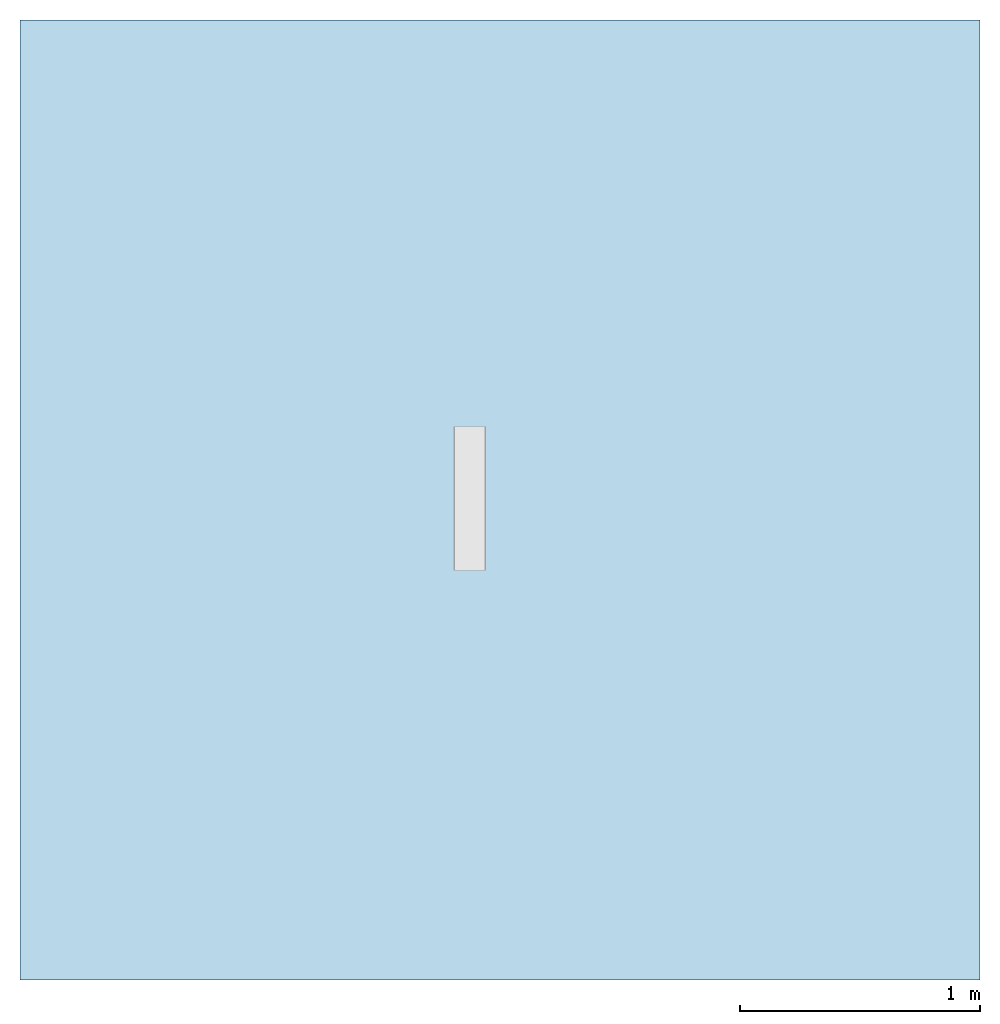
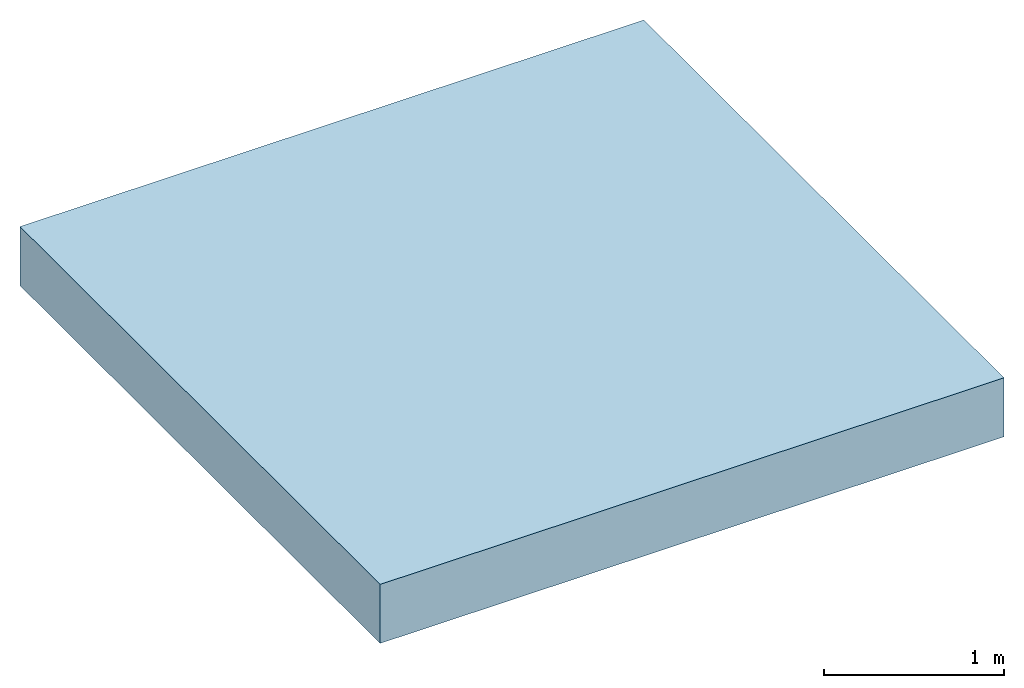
# One storey, incomplete: 1 slab, 2 openings.
"""IFC2X3 building model written with IfcOpenShell, lengths in millimetres."""

from ifc_helpers import new_model, entity, si_unit, converted_unit, derived_unit, direction, frame, frame_2d, origin, place, context, subcontext, project, spatial, polyline, rectangle, outline, extrude, faceted_brep, material, layer, layer_set, layer_usage, element, save


model = new_model("IFC2X3")

# Units and contexts
model_context = context("Model", 3, precision=1e-05, world=origin(), true_north=direction((2.0, 6.12303176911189e-17, 1.0)))
context_of_model = context(None, 3, precision=1e-05, world=origin(), true_north=direction((2.0, 6.12303176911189e-17, 1.0)))
body_context = subcontext(model_context, "Body", "Model", "MODEL_VIEW")
ifc_project = project(units=[si_unit("LENGTHUNIT", "METRE", prefix="MILLI"), si_unit("AREAUNIT", "SQUARE_METRE"), si_unit("VOLUMEUNIT", "CUBIC_METRE"), converted_unit("PLANEANGLEUNIT", "DEGREE", entity("IfcRatioMeasure", 0.0174532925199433), si_unit("PLANEANGLEUNIT", "RADIAN"), dimensions=[0, 0, 0, 0, 0, 0, 0]), si_unit("MASSUNIT", "GRAM", prefix="KILO"), si_unit("TIMEUNIT", "SECOND"), si_unit("THERMODYNAMICTEMPERATUREUNIT", "KELVIN"), derived_unit("THERMALTRANSMITTANCEUNIT", [(si_unit("MASSUNIT", "GRAM", prefix="KILO"), 1), (si_unit("THERMODYNAMICTEMPERATUREUNIT", "KELVIN"), -1), (si_unit("TIMEUNIT", "SECOND"), -3)]), derived_unit("VOLUMETRICFLOWRATEUNIT", [(si_unit("LENGTHUNIT", "METRE"), 3), (si_unit("TIMEUNIT", "SECOND"), -1)]), si_unit("POWERUNIT", "WATT")], contexts=[model_context, context_of_model])

# Site, building, storey
site_placement = place(None, origin())
site = spatial("IfcSite", under=ifc_project, at=site_placement, Name="Default", CompositionType="ELEMENT")
building_placement = place(site_placement, origin())
building = spatial("IfcBuilding", under=site, at=building_placement, CompositionType="ELEMENT")
storey_placement = place(building_placement, origin())
storey = spatial("IfcBuildingStorey", under=building, at=storey_placement, Name="Level 1", CompositionType="ELEMENT", Elevation=0.0)

# Slab, openings
ifc_material = material(Name="Concrete, Broom Finish")
ifc_layer = layer(ifc_material, 400.0)
ifc_layer_set = layer_set([ifc_layer], Name="Floor:Generic Floor - 400mm")
ifc_layer_usage = layer_usage(ifc_layer_set, "AXIS3", "POSITIVE", 0.0)
slab_placement = place(storey_placement, origin())
slab = element("IfcSlab", 1, at=slab_placement, inside=storey, material=ifc_layer_usage, Name="Floor:Generic Floor - 400mm", ObjectType="Floor:Generic Floor - 400mm", PredefinedType="FLOOR", context=body_context, shape_type="SweptSolid", body=[
    extrude(rectangle(XDim=4000.0, YDim=4000.0, at=frame_2d((0.0, 0.0), x_axis=(0.0, -1.0))), frame((-42.176138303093, 2.05004766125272, 0.0), z_axis=(0.0, 0.0, -1.0), x_axis=(-1.0, 0.0, 0.0)), (0.0, 0.0, 1.0), 400.0),
])
opening_1_placement = place(slab_placement, frame((-168.040704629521, -591.552298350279, -5053.0)))
element("IfcOpeningElement", 2, at=opening_1_placement, cuts=slab, ObjectType="Recess", context=body_context, shape_type="Brep", body=[
    faceted_brep([(302.223121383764, 175.255521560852, 32.0), (300.076475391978, 298.23678806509, 32.0), (134.144907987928, 172.321705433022, 32.0), (295.712509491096, 298.160614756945, 32.0), (130.0, 0.0, 32.0), (130.0, 168.103816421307, 32.0), (7.0, 0.0, 32.0), (7.0, 168.103816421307, 32.0), (7.0, 163.739186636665, 32.0), (131.985921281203, 296.009971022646, 32.2928932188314), (131.980809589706, 296.302819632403, 33.0), (131.998261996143, 295.302971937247, 32.0), (134.144907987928, 172.321705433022, 53.0), (131.980809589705, 296.302819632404, 53.0), (302.223121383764, 175.255521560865, 0.0), (130.0, 172.249355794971, 0.0), (130.0, 172.249355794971, 53.0), (299.954308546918, 305.235721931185, 0.0), (0.0, 300.0, 0.0), (0.0, 0.0, 0.0), (130.0, 0.0, 0.0), (300.059022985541, 299.236635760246, 53.0), (299.954308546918, 305.235721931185, 53.0), (6.0, 168.103816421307, 53.0), (0.0, 300.0, 53.0), (0.0, 0.0, 53.0), (130.0, 168.103816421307, 53.0), (6.0, 0.0, 53.0), (6.0, 168.103816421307, 33.0), (6.29289321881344, 168.103816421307, 32.2928932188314), (300.064134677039, 298.943787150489, 32.2928932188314), (300.059022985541, 299.236635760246, 33.0), (140.708741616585, 296.455166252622, 33.0), (6.29289321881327, 0.0, 32.2928932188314), (6.0, 0.0, 33.0), (6.0, 8.7292616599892, 33.0), (272.002592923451, 298.455351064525, 32.2942756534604), (273.814254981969, 297.778379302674, 32.0), (278.570212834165, 298.608297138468, 32.3349384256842), (254.007759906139, 298.108651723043, 32.2630003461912), (259.896197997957, 298.278651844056, 32.3308195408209), (257.072565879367, 298.486304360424, 33.0), (139.318735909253, 296.137965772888, 32.2928932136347), (237.04714554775, 297.136607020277, 32.0), (239.661490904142, 297.8628028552, 32.2672134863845), (233.480216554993, 297.72760765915, 32.2427819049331), (286.608060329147, 298.675556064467, 32.2610474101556), (284.319142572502, 297.96174279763, 32.0), (145.077818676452, 296.23849093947, 32.2928932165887), (149.436673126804, 296.607512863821, 33.0), (184.522704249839, 296.219789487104, 32.0), (188.717372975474, 297.006176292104, 32.2988969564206), (183.037761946, 296.891114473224, 32.2830635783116), (155.595048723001, 295.714855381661, 32.0), (158.653902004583, 296.433410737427, 32.2532114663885), (150.836901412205, 296.339016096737, 32.292893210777), (202.894368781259, 297.221785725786, 32.2679155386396), (205.532480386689, 296.586516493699, 32.0), (208.146067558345, 297.235275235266, 32.2022940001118), (189.775148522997, 296.311471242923, 32.0), (194.399132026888, 297.105407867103, 32.2989540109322), (149.454126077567, 295.607665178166, 32.0), (223.302679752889, 297.599503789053, 32.2885139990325), (220.22703077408, 297.843163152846, 33.0), (213.399313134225, 297.401935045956, 32.2649373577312), (287.777178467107, 299.022255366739, 33.0), (292.629707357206, 298.814018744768, 32.2928932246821), (175.620467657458, 297.064552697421, 33.0), (166.89253614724, 296.912206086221, 33.0), (171.260361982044, 296.767235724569, 32.3727558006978), (250.93164336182, 298.379114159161, 33.0), (248.078971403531, 298.070514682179, 32.3287527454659), (279.066698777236, 297.870061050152, 32.0), (275.495333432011, 298.807874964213, 33.0), (238.649798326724, 298.164733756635, 33.0), (295.695057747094, 299.160462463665, 33.0), (140.726194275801, 295.455318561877, 32.0), (289.571586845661, 298.05342455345, 32.0), (281.636255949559, 298.915065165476, 33.0), (161.735970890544, 295.822045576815, 32.0), (164.835769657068, 296.558810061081, 32.2691642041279), (184.348399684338, 297.216899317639, 33.0), (193.076331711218, 297.369245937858, 33.0), (268.56181070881, 297.686697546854, 32.0), (265.811608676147, 298.342461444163, 32.2894648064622), (269.354410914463, 298.70068476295, 33.0), (258.056922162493, 297.503334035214, 32.0), (263.309366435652, 297.595015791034, 32.0), (247.552033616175, 297.319970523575, 32.0), (252.804477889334, 297.411652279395, 32.0), (263.213488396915, 298.593494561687, 33.0), (242.299589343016, 297.228288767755, 32.0), (244.790720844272, 298.271923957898, 33.0), (232.508875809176, 298.057543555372, 33.0), (226.367953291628, 297.950353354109, 33.0), (228.441030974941, 297.769059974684, 32.3774173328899), (231.794701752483, 297.044925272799, 32.0), (226.542257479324, 296.953243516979, 32.0), (158.164604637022, 296.759859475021, 33.0), (167.876893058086, 295.929235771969, 32.0), (177.362507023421, 296.764390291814, 32.2571703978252), (174.017815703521, 296.036425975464, 32.0), (179.27025997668, 296.128107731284, 32.0), (207.945185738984, 297.62878275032, 33.0), (201.804263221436, 297.521592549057, 33.0), (195.027592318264, 296.403152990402, 32.0), (200.28003611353, 296.49483473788, 32.0), (214.086108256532, 297.735972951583, 33.0), (210.784924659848, 296.678198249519, 32.0), (216.037368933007, 296.769880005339, 32.0), (221.289813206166, 296.861561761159, 32.0), (6.29151349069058, 140.038024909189, 32.2942756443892), (7.0, 141.837591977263, 32.0), (6.25321148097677, 146.607313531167, 32.3349384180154), (6.3241068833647, 122.039881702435, 32.2630003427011), (6.25690008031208, 127.930390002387, 32.3308195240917), (6.0, 125.110810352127, 33.0), (6.29289321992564, 7.33393164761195, 32.2928932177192), (7.0, 105.064883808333, 32.0), (6.31954136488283, 107.691507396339, 32.2672135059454), (6.34683785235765, 101.50881504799, 32.2427819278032), (6.32624258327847, 154.645110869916, 32.2610474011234), (7.0, 152.34408268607, 32.0), (6.29289321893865, 13.0938916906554, 32.2928932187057), (6.0, 17.4585233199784, 33.0), (7.0, 52.5324419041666, 32.0), (6.28693999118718, 56.7401973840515, 32.2988969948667), (6.30286143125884, 51.0594432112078, 32.283063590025), (7.0, 23.600380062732, 32.0), (6.33493842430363, 26.6713092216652, 32.2532114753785), (6.29289322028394, 18.8538517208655, 32.2928932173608), (6.31878609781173, 70.9187975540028, 32.2679155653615), (7.0, 73.5454186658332, 32.0), (6.39695342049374, 76.1699319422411, 32.2022940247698), (7.0, 57.7856849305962, 32.0), (6.28688391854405, 62.4228229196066, 32.2989540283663), (7.0, 17.4585214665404, 32.0), (6.29729972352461, 91.3305919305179, 32.2885140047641), (6.0, 88.2596644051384, 33.0), (6.32200078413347, 81.4252860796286, 32.2649373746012), (6.0, 155.820101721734, 33.0), (6.29289322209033, 160.668256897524, 32.2928932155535), (6.0, 43.6463046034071, 33.0), (6.0, 34.9170447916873, 33.0), (6.22117733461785, 39.2816751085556, 32.3727558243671), (6.0, 118.968952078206, 33.0), (6.25876647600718, 116.111330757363, 32.3287527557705), (7.0, 147.090837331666, 32.0), (6.0, 143.536385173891, 33.0), (6.0, 106.685235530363, 33.0), (6.0, 163.739185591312, 33.0), (7.0, 8.72925956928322, 32.0), (7.0, 157.597328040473, 32.0), (6.0, 149.678243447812, 33.0), (7.0, 29.7422363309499, 32.0), (6.31744666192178, 32.8544238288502, 32.2691642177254), (6.0, 52.3755662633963, 33.0), (6.0, 61.1048279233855, 33.0), (7.0, 136.584348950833, 32.0), (6.29633832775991, 133.846013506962, 32.2894648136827), (6.0, 137.39452689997, 33.0), (7.0, 126.07786057, 32.0), (7.0, 131.331105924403, 32.0), (7.0, 115.571372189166, 32.0), (7.0, 120.824615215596, 32.0), (6.0, 131.252668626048, 33.0), (7.0, 110.318129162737, 32.0), (6.0, 112.827093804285, 33.0), (6.0, 100.543377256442, 33.0), (6.0, 94.4015208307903, 33.0), (6.21744596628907, 96.471120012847, 32.3774173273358), (7.0, 99.8116384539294, 32.0), (7.0, 94.5583954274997, 32.0), (6.0, 26.1877849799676, 33.0), (7.0, 35.8840949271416, 32.0), (6.3305194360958, 45.3828409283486, 32.2571704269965), (7.0, 42.0259535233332, 32.0), (7.0, 47.2791988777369, 32.0), (6.0, 75.9759478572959, 33.0), (6.0, 69.8340895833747, 33.0), (7.0, 63.0389302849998, 32.0), (7.0, 68.2921756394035, 32.0), (6.0, 82.1178061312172, 33.0), (7.0, 78.7986616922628, 32.0), (7.0, 84.0519070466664, 32.0), (7.0, 89.30515240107, 32.0)], [[[0, 1, 2]], [[2, 1, 3]], [[4, 5, 6]], [[5, 7, 8]], [[9, 10, 11]], [[2, 11, 12]], [[10, 13, 11]], [[12, 11, 13]], [[14, 0, 2]], [[14, 2, 15]], [[16, 15, 2]], [[16, 2, 12]], [[17, 14, 15]], [[17, 15, 18]], [[19, 18, 15]], [[19, 15, 20]], [[21, 22, 13]], [[12, 13, 16]], [[16, 13, 23]], [[22, 24, 13]], [[23, 24, 25]], [[23, 26, 16]], [[27, 23, 25]], [[23, 13, 24]], [[7, 28, 29]], [[26, 7, 5]], [[7, 23, 28]], [[23, 7, 26]], [[5, 15, 16]], [[5, 16, 26]], [[5, 4, 20]], [[5, 20, 15]], [[1, 0, 14]], [[30, 1, 17]], [[14, 17, 1]], [[17, 31, 30]], [[31, 22, 21]], [[17, 22, 31]], [[21, 10, 32]], [[13, 10, 21]], [[22, 17, 24]], [[18, 24, 17]], [[20, 4, 6]], [[19, 6, 33]], [[6, 19, 20]], [[33, 34, 19]], [[27, 25, 34]], [[34, 25, 19]], [[28, 23, 27]], [[27, 34, 35]], [[24, 18, 19]], [[19, 25, 24]], [[36, 37, 38]], [[39, 40, 41]], [[42, 32, 10]], [[43, 44, 45]], [[46, 38, 47]], [[32, 48, 49]], [[50, 51, 52]], [[53, 54, 55]], [[56, 57, 58]], [[51, 59, 60]], [[55, 48, 61]], [[42, 48, 32]], [[62, 63, 64]], [[65, 46, 66]], [[67, 68, 69]], [[39, 70, 71]], [[72, 38, 37]], [[38, 73, 36]], [[74, 45, 44]], [[3, 1, 30]], [[30, 31, 75]], [[30, 66, 3]], [[76, 61, 48]], [[9, 11, 42]], [[66, 77, 3]], [[46, 77, 66]], [[66, 75, 65]], [[75, 66, 30]], [[72, 47, 38]], [[78, 38, 46]], [[73, 38, 78]], [[46, 65, 78]], [[54, 79, 80]], [[70, 39, 41]], [[81, 51, 82]], [[83, 36, 84]], [[36, 85, 84]], [[86, 87, 40]], [[86, 40, 39]], [[88, 89, 71]], [[90, 40, 84]], [[43, 91, 44]], [[39, 71, 89]], [[90, 84, 85]], [[36, 73, 85]], [[91, 88, 71]], [[71, 92, 44]], [[93, 45, 74]], [[71, 44, 91]], [[41, 40, 90]], [[62, 94, 63]], [[45, 93, 95]], [[96, 43, 45]], [[95, 62, 97]], [[74, 44, 92]], [[71, 70, 92]], [[40, 87, 84]], [[47, 77, 46]], [[87, 83, 84]], [[55, 49, 48]], [[97, 96, 95]], [[76, 48, 42]], [[80, 98, 54]], [[98, 55, 54]], [[98, 49, 55]], [[79, 54, 53]], [[55, 61, 53]], [[68, 98, 80]], [[80, 69, 68]], [[80, 99, 69]], [[67, 69, 100]], [[60, 82, 51]], [[101, 100, 69]], [[67, 100, 81]], [[101, 69, 99]], [[80, 79, 99]], [[100, 102, 52]], [[76, 42, 11]], [[100, 101, 102]], [[9, 42, 10]], [[64, 103, 58]], [[104, 60, 56]], [[36, 83, 37]], [[52, 102, 50]], [[60, 104, 82]], [[105, 106, 60]], [[106, 56, 60]], [[56, 106, 57]], [[103, 104, 56]], [[107, 103, 64]], [[64, 108, 109]], [[108, 58, 57]], [[63, 107, 64]], [[94, 62, 95]], [[110, 62, 109]], [[64, 109, 62]], [[56, 58, 103]], [[64, 58, 108]], [[110, 97, 62]], [[94, 95, 93]], [[96, 45, 95]], [[52, 81, 100]], [[52, 51, 81]], [[89, 86, 39]], [[105, 60, 59]], [[51, 50, 59]], [[111, 112, 113]], [[114, 115, 116]], [[117, 35, 34]], [[118, 119, 120]], [[121, 113, 122]], [[35, 123, 124]], [[125, 126, 127]], [[128, 129, 130]], [[131, 132, 133]], [[126, 134, 135]], [[130, 123, 136]], [[117, 123, 35]], [[137, 138, 139]], [[140, 121, 141]], [[142, 143, 144]], [[114, 145, 146]], [[147, 113, 112]], [[113, 148, 111]], [[149, 120, 119]], [[8, 7, 29]], [[29, 28, 150]], [[29, 141, 8]], [[151, 136, 123]], [[33, 6, 117]], [[141, 152, 8]], [[121, 152, 141]], [[141, 150, 140]], [[150, 141, 29]], [[147, 122, 113]], [[153, 113, 121]], [[148, 113, 153]], [[121, 140, 153]], [[129, 154, 155]], [[145, 114, 116]], [[156, 126, 157]], [[158, 111, 159]], [[111, 160, 159]], [[161, 162, 115]], [[161, 115, 114]], [[163, 164, 146]], [[165, 115, 159]], [[118, 166, 119]], [[114, 146, 164]], [[165, 159, 160]], [[111, 148, 160]], [[166, 163, 146]], [[146, 167, 119]], [[168, 120, 149]], [[146, 119, 166]], [[116, 115, 165]], [[137, 169, 138]], [[120, 168, 170]], [[171, 118, 120]], [[170, 137, 172]], [[149, 119, 167]], [[146, 145, 167]], [[115, 162, 159]], [[122, 152, 121]], [[162, 158, 159]], [[130, 124, 123]], [[172, 171, 170]], [[151, 123, 117]], [[155, 173, 129]], [[173, 130, 129]], [[173, 124, 130]], [[154, 129, 128]], [[130, 136, 128]], [[143, 173, 155]], [[155, 144, 143]], [[155, 174, 144]], [[142, 144, 175]], [[135, 157, 126]], [[176, 175, 144]], [[142, 175, 156]], [[176, 144, 174]], [[155, 154, 174]], [[175, 177, 127]], [[151, 117, 6]], [[175, 176, 177]], [[33, 117, 34]], [[139, 178, 133]], [[179, 135, 131]], [[111, 158, 112]], [[127, 177, 125]], [[135, 179, 157]], [[180, 181, 135]], [[181, 131, 135]], [[131, 181, 132]], [[178, 179, 131]], [[182, 178, 139]], [[139, 183, 184]], [[183, 133, 132]], [[138, 182, 139]], [[169, 137, 170]], [[185, 137, 184]], [[139, 184, 137]], [[131, 133, 178]], [[139, 133, 183]], [[185, 172, 137]], [[169, 170, 168]], [[171, 120, 170]], [[127, 156, 175]], [[127, 126, 156]], [[164, 161, 114]], [[180, 135, 134]], [[126, 125, 134]], [[2, 3, 77]], [[2, 77, 47]], [[2, 47, 72]], [[2, 72, 37]], [[2, 37, 83]], [[2, 83, 87]], [[2, 87, 86]], [[2, 86, 89]], [[2, 89, 88]], [[2, 88, 91]], [[2, 91, 43]], [[2, 43, 96]], [[2, 96, 97]], [[2, 97, 110]], [[2, 110, 109]], [[2, 109, 108]], [[2, 108, 57]], [[2, 57, 106]], [[2, 106, 105]], [[2, 105, 59]], [[2, 59, 50]], [[2, 50, 102]], [[2, 102, 101]], [[2, 101, 99]], [[2, 99, 79]], [[2, 79, 53]], [[2, 53, 61]], [[2, 61, 76]], [[2, 76, 11]], [[5, 8, 152]], [[5, 152, 122]], [[5, 122, 147]], [[5, 147, 112]], [[5, 112, 158]], [[5, 158, 162]], [[5, 162, 161]], [[5, 161, 164]], [[5, 164, 163]], [[5, 163, 166]], [[5, 166, 118]], [[5, 118, 171]], [[5, 171, 172]], [[5, 172, 185]], [[5, 185, 184]], [[5, 184, 183]], [[5, 183, 132]], [[5, 132, 181]], [[5, 181, 180]], [[5, 180, 134]], [[5, 134, 125]], [[5, 125, 177]], [[5, 177, 176]], [[5, 176, 174]], [[5, 174, 154]], [[5, 154, 128]], [[5, 128, 136]], [[5, 136, 151]], [[5, 151, 6]], [[21, 32, 49]], [[21, 49, 98]], [[21, 98, 68]], [[21, 68, 67]], [[21, 67, 81]], [[21, 81, 82]], [[21, 82, 104]], [[21, 104, 103]], [[21, 103, 107]], [[21, 107, 63]], [[21, 63, 94]], [[21, 94, 93]], [[21, 93, 74]], [[21, 74, 92]], [[21, 92, 70]], [[21, 70, 41]], [[21, 41, 90]], [[21, 90, 85]], [[21, 85, 73]], [[21, 73, 78]], [[21, 78, 65]], [[21, 65, 75]], [[21, 75, 31]], [[27, 35, 124]], [[27, 124, 173]], [[27, 173, 143]], [[27, 143, 142]], [[27, 142, 156]], [[27, 156, 157]], [[27, 157, 179]], [[27, 179, 178]], [[27, 178, 182]], [[27, 182, 138]], [[27, 138, 169]], [[27, 169, 168]], [[27, 168, 149]], [[27, 149, 167]], [[27, 167, 145]], [[27, 145, 116]], [[27, 116, 165]], [[27, 165, 160]], [[27, 160, 148]], [[27, 148, 153]], [[27, 153, 140]], [[27, 140, 150]], [[27, 150, 28]]]),
])
opening_2_placement = place(slab_placement, frame((-168.040704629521, -591.552298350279, -5053.0)))
element("IfcOpeningElement", 3, at=opening_2_placement, cuts=slab, ObjectType="Recess", context=body_context, shape_type="SweptSolid", body=[
    extrude(outline(polyline([(-3.75000000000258, -67.0), (56.2499999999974, -67.0), (56.2499999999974, 67.0), (-3.75000000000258, 67.0), (-3.74999999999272, 65.0), (-48.7500000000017, 65.0), (-48.7499999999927, -65.0), (-3.75000000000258, -65.0), (-3.75000000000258, -67.0)])), frame((-168.040704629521, -291.552298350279, -48.7500000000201), z_axis=(0.0, 1.0, 0.0), x_axis=(0.0, 0.0, -1.0)), (0.0, 0.0, 1.0), 600.0),
])

save(model, "model.ifc")
